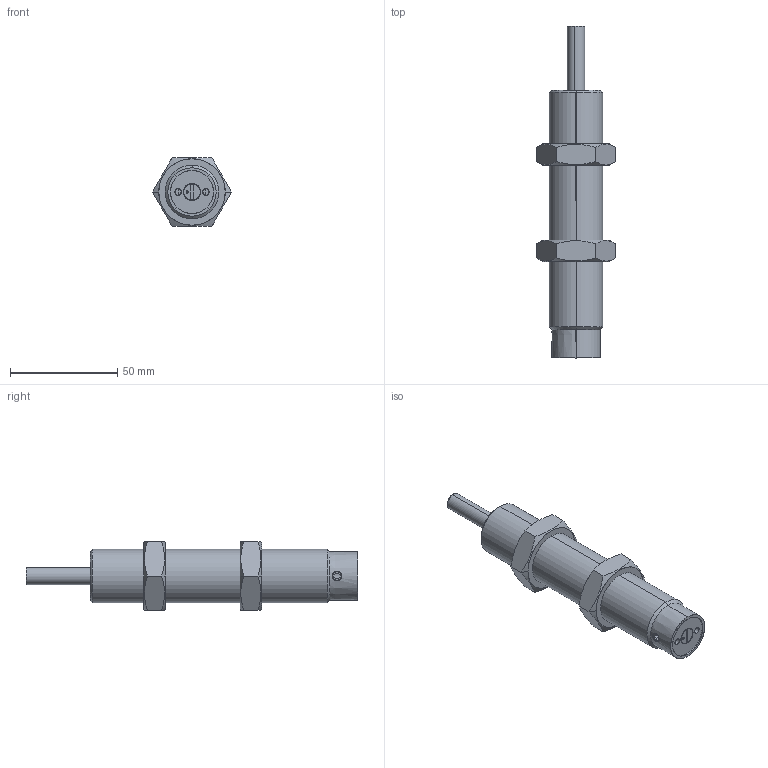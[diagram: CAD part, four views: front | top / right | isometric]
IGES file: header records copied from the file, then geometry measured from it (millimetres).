
Start section: SolidWorks IGES file using analytic representation for surfaces
Bounding box: 36.95 x 155 x 32 mm (x, y, z)
Surface area: 16913.7 mm2 (no closed solid volume)
Topology: 0 solids, 0 shells, 87 faces, 1788 edges, 1786 vertices
Faces by surface type: revolution 48, bspline 39
